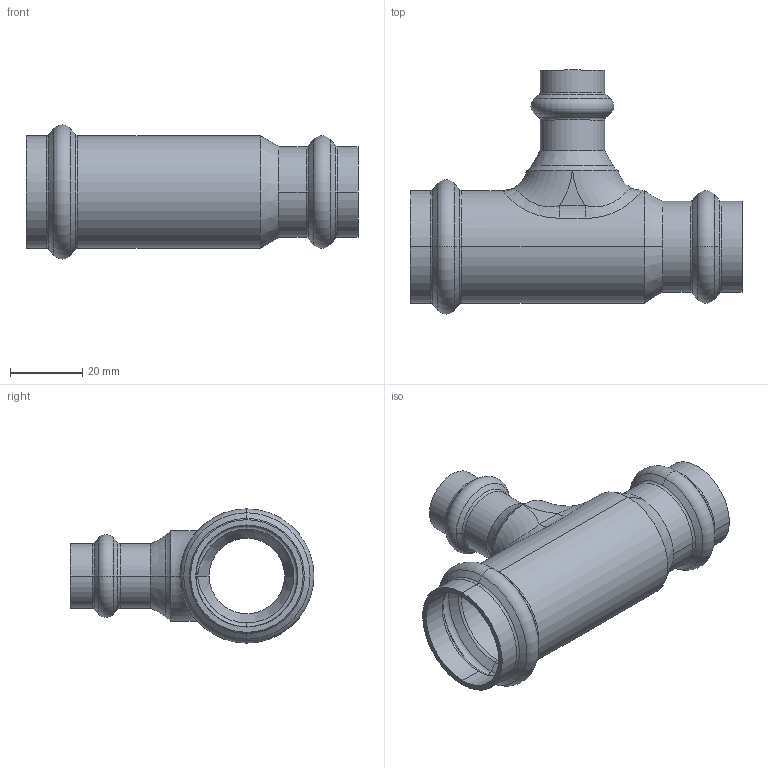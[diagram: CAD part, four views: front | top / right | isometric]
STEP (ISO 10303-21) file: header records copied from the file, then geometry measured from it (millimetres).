
FILE_DESCRIPTION (( 'STEP AP203' ), '1' );
FILE_NAME ('SP5130 Ø28-15-22.STEP', '2017-04-24T13:16:08', ( '' ), ( '' ), 'SwSTEP 2.0', 'SolidWorks 2016', '' );
FILE_SCHEMA (( 'CONFIG_CONTROL_DESIGN' ));
Length unit declared in the file: millimetre
Products named in the file (1): SP5130 Ø28-15-22
Bounding box: 92 x 67.6 x 37.2 mm (x, y, z)
Volume: 19945.1 mm3; surface area: 21569.3 mm2
Topology: 1 solids, 1 shells, 129 faces, 286 edges, 156 vertices
Faces by surface type: torus 46, cone 36, cylinder 35, bspline 6, plane 6
Entity records: 5037 total; most frequent: CARTESIAN_POINT 2088, DIRECTION 686, ORIENTED_EDGE 564, AXIS2_PLACEMENT_3D 308, EDGE_CURVE 282, CIRCLE 184, VERTEX_POINT 156, EDGE_LOOP 134
